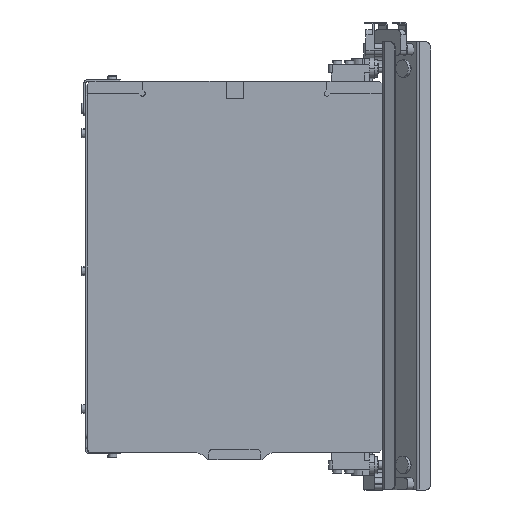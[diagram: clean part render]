
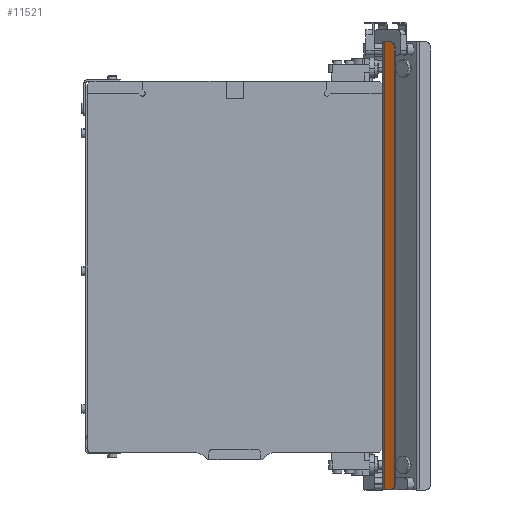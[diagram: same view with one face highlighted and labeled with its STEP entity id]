
A CAD part, front view. The second image highlights one B-rep face of the part: STEP entity #11521.
In plain terms, the highlighted planar face has unit normal (-0.5, -0.866, 0).
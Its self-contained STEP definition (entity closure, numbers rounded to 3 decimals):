
#65 = ORIENTED_EDGE ( 'NONE', *, *, #13337, .T. ) ;
#573 = PLANE ( 'NONE',  #35994 ) ;
#1550 = ORIENTED_EDGE ( 'NONE', *, *, #21531, .T. ) ;
#1764 = CIRCLE ( 'NONE', #6434, 3. ) ;
#3356 = LINE ( 'NONE', #7178, #6938 ) ;
#3906 = DIRECTION ( 'NONE',  ( 0., 0., -1. ) ) ;
#4696 = CARTESIAN_POINT ( 'NONE',  ( 92.562, 7.134, 130.5 ) ) ;
#5308 = VERTEX_POINT ( 'NONE', #26271 ) ;
#6118 = DIRECTION ( 'NONE',  ( -0.866, 0.5, 0. ) ) ;
#6434 = AXIS2_PLACEMENT_3D ( 'NONE', #20121, #37335, #37204 ) ;
#6542 = VERTEX_POINT ( 'NONE', #24673 ) ;
#6636 = VERTEX_POINT ( 'NONE', #15816 ) ;
#6938 = VECTOR ( 'NONE', #16059, 1000. ) ;
#7178 = CARTESIAN_POINT ( 'NONE',  ( 86.5, 10.634, -129.5 ) ) ;
#7731 = LINE ( 'NONE', #4696, #23616 ) ;
#9365 = DIRECTION ( 'NONE',  ( 0.5, 0.866, 0. ) ) ;
#11185 = CIRCLE ( 'NONE', #25606, 3. ) ;
#11521 = ADVANCED_FACE ( 'NONE', ( #14931 ), #573, .F. ) ;
#12485 = CARTESIAN_POINT ( 'NONE',  ( 89.964, 8.634, -129.5 ) ) ;
#12878 = ORIENTED_EDGE ( 'NONE', *, *, #27091, .F. ) ;
#13337 = EDGE_CURVE ( 'NONE', #20403, #6542, #1764, .T. ) ;
#14772 = DIRECTION ( 'NONE',  ( -0.866, 0.5, 0. ) ) ;
#14931 = FACE_OUTER_BOUND ( 'NONE', #15954, .T. ) ;
#15816 = CARTESIAN_POINT ( 'NONE',  ( 89.964, 8.634, 130.5 ) ) ;
#15898 = CARTESIAN_POINT ( 'NONE',  ( 87., 10.345, 130.5 ) ) ;
#15954 = EDGE_LOOP ( 'NONE', ( #35911, #65, #34516, #25129, #12878, #1550 ) ) ;
#16059 = DIRECTION ( 'NONE',  ( 0.866, -0.5, 0. ) ) ;
#16381 = VERTEX_POINT ( 'NONE', #20657 ) ;
#16446 = LINE ( 'NONE', #34384, #18717 ) ;
#17966 = EDGE_CURVE ( 'NONE', #28311, #20403, #3356, .T. ) ;
#18016 = CARTESIAN_POINT ( 'NONE',  ( 86.5, 10.634, 130.5 ) ) ;
#18717 = VECTOR ( 'NONE', #28390, 1000. ) ;
#20121 = CARTESIAN_POINT ( 'NONE',  ( 89.964, 8.634, -126.5 ) ) ;
#20403 = VERTEX_POINT ( 'NONE', #12485 ) ;
#20657 = CARTESIAN_POINT ( 'NONE',  ( 92.562, 7.134, 127.5 ) ) ;
#21531 = EDGE_CURVE ( 'NONE', #5308, #28311, #29616, .T. ) ;
#21939 = VECTOR ( 'NONE', #3906, 1000. ) ;
#23616 = VECTOR ( 'NONE', #36615, 1000. ) ;
#23735 = CARTESIAN_POINT ( 'NONE',  ( 87., 10.345, -129.5 ) ) ;
#24229 = EDGE_CURVE ( 'NONE', #16381, #6636, #11185, .T. ) ;
#24673 = CARTESIAN_POINT ( 'NONE',  ( 92.562, 7.134, -126.5 ) ) ;
#25129 = ORIENTED_EDGE ( 'NONE', *, *, #24229, .T. ) ;
#25606 = AXIS2_PLACEMENT_3D ( 'NONE', #29171, #26650, #14772 ) ;
#26271 = CARTESIAN_POINT ( 'NONE',  ( 87., 10.345, 130.5 ) ) ;
#26650 = DIRECTION ( 'NONE',  ( -0.5, -0.866, 0. ) ) ;
#27091 = EDGE_CURVE ( 'NONE', #5308, #6636, #16446, .T. ) ;
#28311 = VERTEX_POINT ( 'NONE', #23735 ) ;
#28390 = DIRECTION ( 'NONE',  ( 0.866, -0.5, 0. ) ) ;
#28987 = EDGE_CURVE ( 'NONE', #16381, #6542, #7731, .T. ) ;
#29171 = CARTESIAN_POINT ( 'NONE',  ( 89.964, 8.634, 127.5 ) ) ;
#29616 = LINE ( 'NONE', #15898, #21939 ) ;
#34384 = CARTESIAN_POINT ( 'NONE',  ( 86.5, 10.634, 130.5 ) ) ;
#34516 = ORIENTED_EDGE ( 'NONE', *, *, #28987, .F. ) ;
#35911 = ORIENTED_EDGE ( 'NONE', *, *, #17966, .T. ) ;
#35994 = AXIS2_PLACEMENT_3D ( 'NONE', #18016, #9365, #6118 ) ;
#36615 = DIRECTION ( 'NONE',  ( 0., 0., -1. ) ) ;
#37204 = DIRECTION ( 'NONE',  ( -0.866, 0.5, 0. ) ) ;
#37335 = DIRECTION ( 'NONE',  ( -0.5, -0.866, 0. ) ) ;
